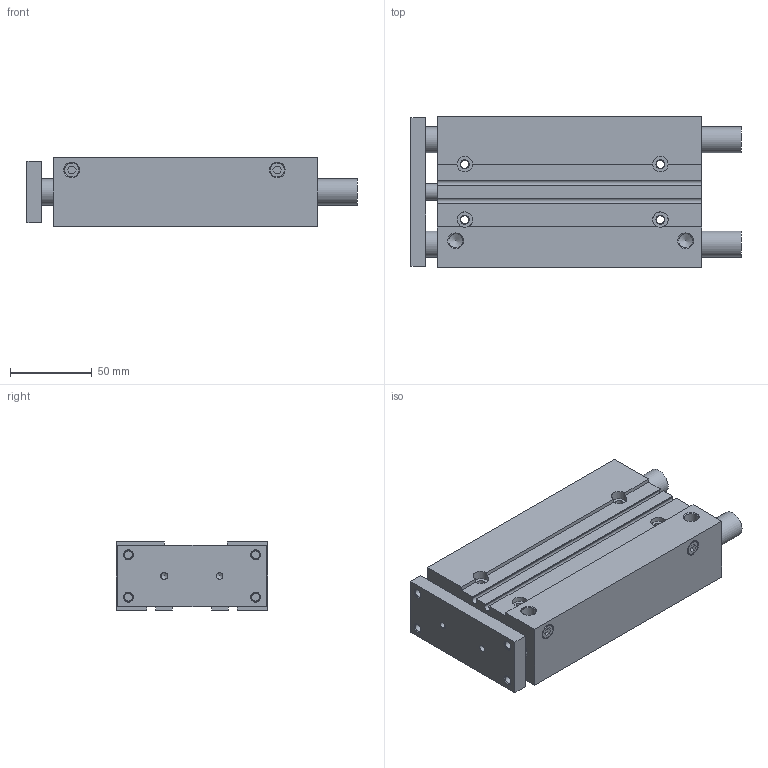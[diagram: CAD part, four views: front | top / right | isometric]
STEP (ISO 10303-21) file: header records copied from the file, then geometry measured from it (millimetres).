
FILE_DESCRIPTION(/* description */ ('STEP AP214'),/* implementation_level */ '2;1');
FILE_NAME(/* name */ 'MGPM25TF-125Z(0_0)',/* time_stamp */ '2025-09-02T13:10:22+02:00',/* author */ ('License CC BY-ND 4.0'),/* organization */ ('CADENAS'),/* preprocessor_version */ 'ST-DEVELOPER v19.3',/* originating_system */ 'PARTsolutions',/* authorisation */ ' ');
FILE_SCHEMA (('AUTOMOTIVE_DESIGN {1 0 10303 214 3 1 1}'));
Length unit declared in the file: millimetre
Products named in the file (4): MGPM25TF-125Z(0_0); MGPM25-125Z(0)_BODY; MGPM25-125Z(0)_ROD; MGP-Z_PLUG_25
Assembly tree (4 placements, depth 2):
  MGPM25TF-125Z(0_0)
    MGPM25-125Z(0)_BODY
    MGPM25-125Z(0)_ROD
    MGP-Z_PLUG_25  x2
Bounding box: 202.5 x 93 x 42 mm (x, y, z)
Volume: 569066 mm3; surface area: 131631.9 mm2
Topology: 4 solids, 4 shells, 184 faces, 447 edges, 283 vertices
Faces by surface type: plane 96, cylinder 50, cone 38
Full cylindrical faces by diameter (mm): 4 x6, 4.917 x12, 5.4 x4, 8.566 x4, 9.5 x4, 9.728 x2, 10 x2, 16 x4, 25 x2
Entity records: 4681 total; most frequent: DIRECTION 808, CARTESIAN_POINT 765, ORIENTED_EDGE 654, EDGE_CURVE 327, AXIS2_PLACEMENT_3D 304, FACE_BOUND 292, EDGE_LOOP 278, VERTEX_POINT 261
